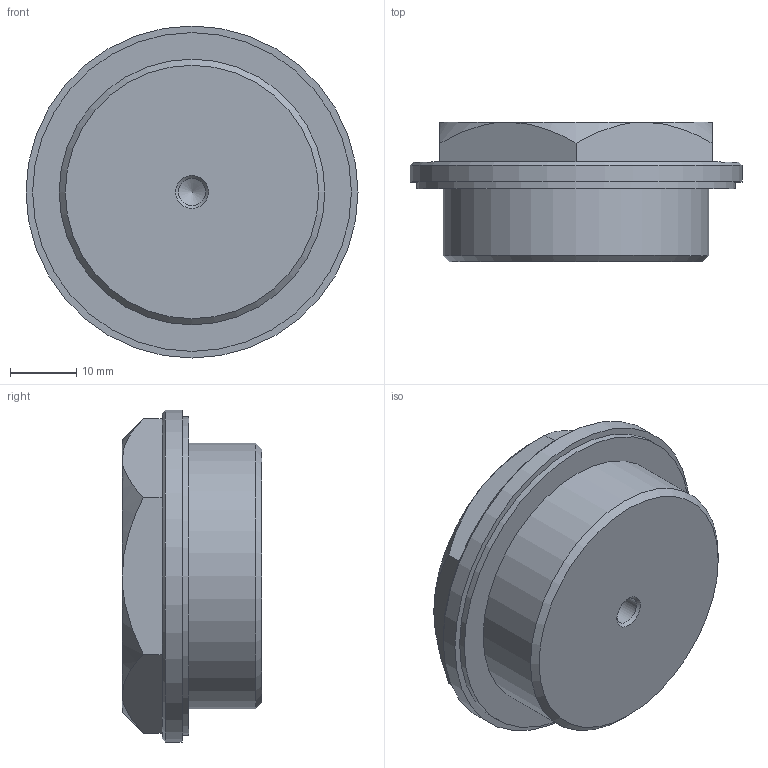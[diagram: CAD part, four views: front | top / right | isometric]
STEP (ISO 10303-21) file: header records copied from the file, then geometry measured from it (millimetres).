
FILE_DESCRIPTION( ( 'STEP AP203' ), '1' );
FILE_NAME( 'C:/Temp/Ganter_Step_05_03_2020/data/3_5/gn742/gn742_1/Threaded plug GN 742-50-M40x1,5-ASS-1.stp', '2020-03-12T13:39:00', ( 'License CC BY-ND 4.0' ), ( 'CADENAS' ), ' ', 'PARTsolutions', ' ' );
FILE_SCHEMA( ( 'CONFIG_CONTROL_DESIGN' ) );
Length unit declared in the file: millimetre
Products named in the file (1): _Threaded plug GN 742-50-M40x1,5-ASS-1
Bounding box: 50 x 21 x 50 mm (x, y, z)
Volume: 29830.6 mm3; surface area: 6780.4 mm2
Topology: 1 solids, 1 shells, 52 faces, 125 edges, 80 vertices
Faces by surface type: plane 38, cone 10, cylinder 4
Full cylindrical faces by diameter (mm): 4.134 x1, 40 x1, 48 x1, 50 x1
Entity records: 1553 total; most frequent: CARTESIAN_POINT 341, ORIENTED_EDGE 232, DIRECTION 227, EDGE_CURVE 116, LINE 87, VECTOR 87, VERTEX_POINT 80, AXIS2_PLACEMENT_3D 70
